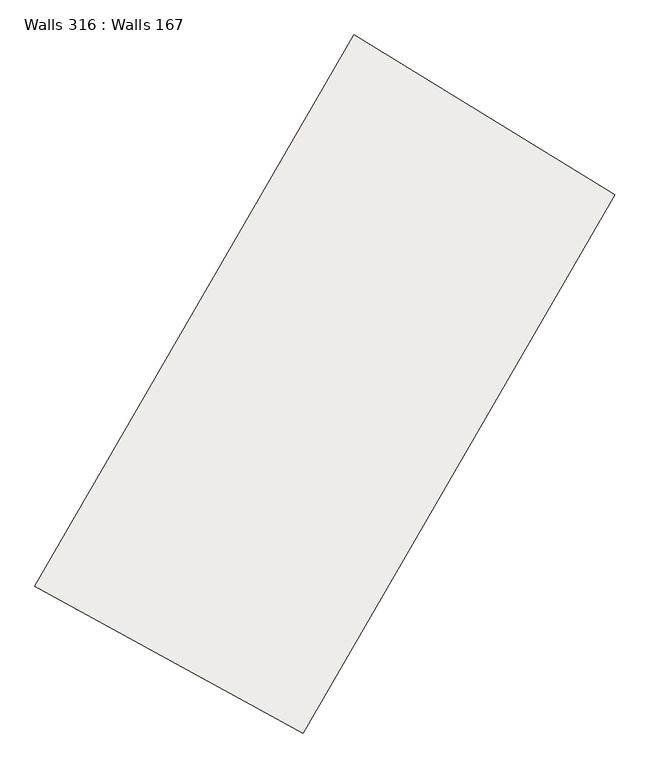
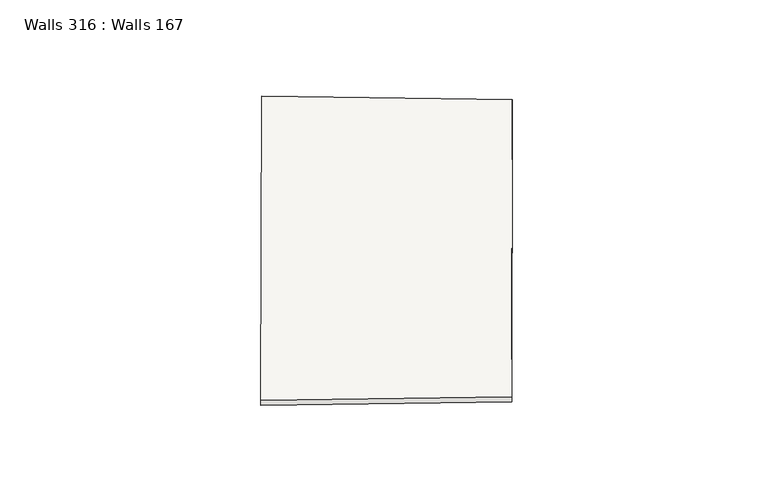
"""IFC4 building model written with IfcOpenShell, lengths in millimetres: slab geometry, Walls 316 : Walls 167."""

from ifc_helpers import new_model, si_unit, frame, origin, place, context, project, spatial, source, transform, mapped, element, save
from ifc_brep_helpers import plane_surface, spline_curve, spline_surface, advanced_brep


def walls_316_walls_167_e10b0d93(model_context):
    return source(origin(), model_context, "Body", "AdvancedBrep", [
        advanced_brep(
        [(206637.2767582, 104013.4839664, 641650.0), (210321.33162, 101996.6201199, 641650.0), (210321.33162, 101996.6201199, 641750.0), (206637.2767582, 104013.4839664, 641750.0), (211019.6285932, 111578.4626906, 641750.0), (211019.6285932, 111578.4626906, 641850.0), (214601.9373096, 109385.9608637, 641850.0), (214601.9373096, 109385.9608637, 641750.0)],
        [
            (0, 1),
            (1, 2),
            (2, 3),
            (3, 0),
            (4, 5),
            (5, 6),
            (6, 7),
            (7, 4),
            (5, 3, spline_curve(3, [(211019.6285932, 111578.4626906, 641850.0), (209498.188932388, 109092.596320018, 641816.666666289), (208036.836206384, 106569.954894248, 641783.333333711), (206637.2767582, 104013.4839664, 641750.0)], [4, 4], [0.0, 28.354573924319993])),
            (2, 6, spline_curve(3, [(210321.33162, 101996.6201199, 641750.0), (211688.39715084, 104493.736830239, 641783.333333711), (213115.821289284, 106957.809466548, 641816.666666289), (214601.9373096, 109385.9608637, 641850.0)], [4, 4], [0.0, 28.354573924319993])),
            (7, 1, spline_curve(3, [(214601.9373096, 109385.9608637, 641750.0), (213115.821289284, 106957.809466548, 641716.666666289), (211688.39715084, 104493.736830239, 641683.333333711), (210321.33162, 101996.6201199, 641650.0)], [4, 4], [0.0, 28.354573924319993])),
            (0, 4, spline_curve(3, [(206637.2767582, 104013.4839664, 641650.0), (208036.836206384, 106569.954894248, 641683.333333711), (209498.188932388, 109092.596320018, 641716.666666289), (211019.6285932, 111578.4626906, 641750.0)], [4, 4], [0.0, 28.354573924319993])),
        ],
        [
            plane_surface(frame((208479.3041891, 103005.0520432, 641700.0), z_axis=(-0.48020567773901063, -0.8771559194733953, 0.0), x_axis=(0.8771559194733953, -0.48020567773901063, 0.0))),
            plane_surface(frame((212810.7829514, 110482.2117771, 641800.0), z_axis=(0.5220242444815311, 0.8529306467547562, 0.0), x_axis=(0.8529306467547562, -0.5220242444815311, 0.0))),
            spline_surface(3, 3, [[(214601.9373096, 109385.9608637, 641850.0), (213115.821289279, 106957.809466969, 641816.666666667), (211688.397150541, 104493.73683053, 641783.333333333), (210321.33162, 101996.6201199, 641750.0)], [(213407.834404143, 110116.794805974, 641850.0), (211909.943836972, 107669.405084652, 641816.666666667), (210471.210169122, 105185.809518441, 641783.333333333), (209093.313332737, 102668.908068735, 641750.0)], [(212213.731498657, 110847.628748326, 641850.0), (210704.066384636, 108381.000702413, 641816.666666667), (209254.023187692, 105877.882206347, 641783.333333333), (207865.295045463, 103341.196017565, 641750.0)], [(211019.6285932, 111578.4626906, 641850.0), (209498.18893233, 109092.596320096, 641816.666666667), (208036.836206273, 106569.954894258, 641783.333333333), (206637.2767582, 104013.4839664, 641750.0)]], [4, 4], [4, 4], [0.0, 13.77952736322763], [0.0, 28.354573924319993]),
            spline_surface(3, 3, [[(211019.6285932, 111578.4626906, 641750.0), (209498.18893233, 109092.596320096, 641716.666666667), (208036.836206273, 106569.954894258, 641683.333333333), (206637.2767582, 104013.4839664, 641650.0)], [(212213.731498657, 110847.628748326, 641750.0), (210704.066384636, 108381.000702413, 641716.666666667), (209254.023187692, 105877.882206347, 641683.333333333), (207865.295045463, 103341.196017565, 641650.0)], [(213407.834404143, 110116.794805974, 641750.0), (211909.943836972, 107669.405084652, 641716.666666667), (210471.210169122, 105185.809518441, 641683.333333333), (209093.313332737, 102668.908068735, 641650.0)], [(214601.9373096, 109385.9608637, 641750.0), (213115.821289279, 106957.809466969, 641716.666666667), (211688.397150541, 104493.73683053, 641683.333333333), (210321.33162, 101996.6201199, 641650.0)]], [4, 4], [4, 4], [0.0, 13.779527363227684], [0.0, 28.354573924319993]),
            spline_surface(3, 3, [[(214601.9373096, 109385.9608637, 641750.0), (213115.821289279, 106957.809466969, 641716.666666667), (211688.397150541, 104493.73683053, 641683.333333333), (210321.33162, 101996.6201199, 641650.0)], [(214601.9373096, 109385.9608637, 641783.333333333), (213115.821289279, 106957.809466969, 641750.0), (211688.397150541, 104493.73683053, 641716.666666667), (210321.33162, 101996.6201199, 641683.333333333)], [(214601.9373096, 109385.9608637, 641816.666666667), (213115.821289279, 106957.809466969, 641783.333333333), (211688.397150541, 104493.73683053, 641750.0), (210321.33162, 101996.6201199, 641716.666666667)], [(214601.9373096, 109385.9608637, 641850.0), (213115.821289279, 106957.809466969, 641816.666666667), (211688.397150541, 104493.73683053, 641783.333333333), (210321.33162, 101996.6201199, 641750.0)]], [4, 4], [4, 4], [0.0, 0.3280839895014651], [0.0, 28.021595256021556]),
            spline_surface(3, 3, [[(211019.6285932, 111578.4626906, 641850.0), (209498.18893233, 109092.596320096, 641816.666666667), (208036.836206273, 106569.954894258, 641783.333333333), (206637.2767582, 104013.4839664, 641750.0)], [(211019.6285932, 111578.4626906, 641816.666666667), (209498.18893233, 109092.596320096, 641783.333333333), (208036.836206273, 106569.954894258, 641750.0), (206637.2767582, 104013.4839664, 641716.666666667)], [(211019.6285932, 111578.4626906, 641783.333333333), (209498.18893233, 109092.596320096, 641750.0), (208036.836206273, 106569.954894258, 641716.666666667), (206637.2767582, 104013.4839664, 641683.333333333)], [(211019.6285932, 111578.4626906, 641750.0), (209498.18893233, 109092.596320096, 641716.666666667), (208036.836206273, 106569.954894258, 641683.333333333), (206637.2767582, 104013.4839664, 641650.0)]], [4, 4], [4, 4], [0.0, 0.3280839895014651], [0.0, 28.687553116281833]),
        ],
        [
            (0, [[1, 2, 3, 4]]),
            (1, [[5, 6, 7, 8]]),
            (2, [[-6, 9, -3, 10]]),
            (3, [[-8, 11, -1, 12]]),
            (4, [[-7, -10, -2, -11]]),
            (5, [[-5, -12, -4, -9]]),
        ],
    ),
    ])


if __name__ == "__main__":
    model = new_model("IFC4")
    model_context = context("Model", 3, world=origin())
    ifc_project = project(units=[si_unit("LENGTHUNIT", "METRE", prefix="MILLI")], contexts=[model_context])
    site = spatial("IfcSite", under=ifc_project)
    building = spatial("IfcBuilding", under=site)
    placement = place(None, origin())
    walls_316_walls_167_shape = walls_316_walls_167_e10b0d93(model_context)
    element("IfcSlab", 1, ObjectType="Walls 316 : Walls 167", at=placement, inside=building, context=model_context, shape_type="MappedRepresentation", body=[
        mapped(walls_316_walls_167_shape, transform((0.0, 0.0, 0.0), x_axis=(1.0, 0.0, 0.0), y_axis=(0.0, 1.0, 0.0), z_axis=(0.0, 0.0, 1.0))),
    ])
    save(model, "model.ifc")
